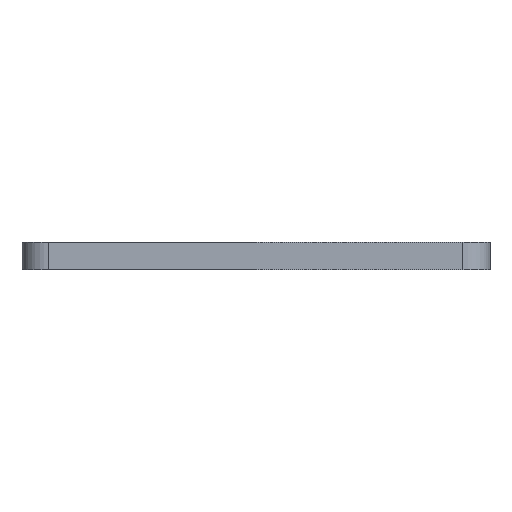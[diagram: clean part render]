
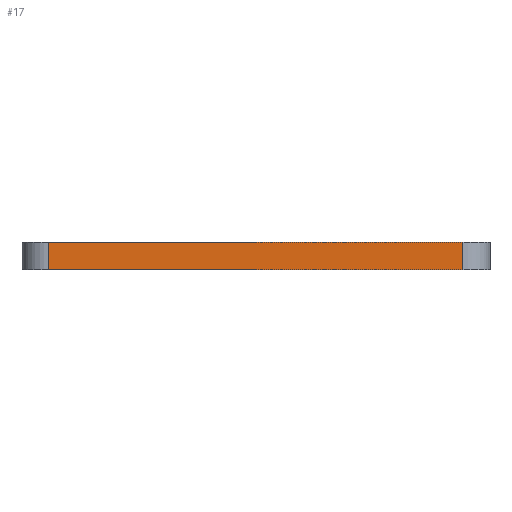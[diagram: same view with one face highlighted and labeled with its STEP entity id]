
A CAD part, left-side view. The second image highlights one B-rep face of the part: STEP entity #17.
In plain terms, the highlighted planar face has unit normal (-1, 0, 0).
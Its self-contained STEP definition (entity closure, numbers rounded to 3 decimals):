
#17 = ADVANCED_FACE('',(#18),#32,.F.);
#18 = FACE_BOUND('',#19,.F.);
#19 = EDGE_LOOP('',(#20,#55,#83,#111));
#20 = ORIENTED_EDGE('',*,*,#21,.F.);
#21 = EDGE_CURVE('',#22,#24,#26,.T.);
#22 = VERTEX_POINT('',#23);
#23 = CARTESIAN_POINT('',(0.,3.,3.));
#24 = VERTEX_POINT('',#25);
#25 = CARTESIAN_POINT('',(0.,49.,3.));
#26 = SURFACE_CURVE('',#27,(#31,#43),.PCURVE_S1.);
#27 = LINE('',#28,#29);
#28 = CARTESIAN_POINT('',(0.,0.,3.));
#29 = VECTOR('',#30,1.);
#30 = DIRECTION('',(0.,1.,0.));
#31 = PCURVE('',#32,#37);
#32 = PLANE('',#33);
#33 = AXIS2_PLACEMENT_3D('',#34,#35,#36);
#34 = CARTESIAN_POINT('',(0.,0.,0.));
#35 = DIRECTION('',(1.,0.,0.));
#36 = DIRECTION('',(0.,0.,1.));
#37 = DEFINITIONAL_REPRESENTATION('',(#38),#42);
#38 = LINE('',#39,#40);
#39 = CARTESIAN_POINT('',(3.,0.));
#40 = VECTOR('',#41,1.);
#41 = DIRECTION('',(0.,-1.));
#42 = ( GEOMETRIC_REPRESENTATION_CONTEXT(2) 
PARAMETRIC_REPRESENTATION_CONTEXT() REPRESENTATION_CONTEXT('2D SPACE',''
  ) );
#43 = PCURVE('',#44,#49);
#44 = PLANE('',#45);
#45 = AXIS2_PLACEMENT_3D('',#46,#47,#48);
#46 = CARTESIAN_POINT('',(0.,0.,3.));
#47 = DIRECTION('',(0.,0.,1.));
#48 = DIRECTION('',(1.,0.,0.));
#49 = DEFINITIONAL_REPRESENTATION('',(#50),#54);
#50 = LINE('',#51,#52);
#51 = CARTESIAN_POINT('',(0.,0.));
#52 = VECTOR('',#53,1.);
#53 = DIRECTION('',(0.,1.));
#54 = ( GEOMETRIC_REPRESENTATION_CONTEXT(2) 
PARAMETRIC_REPRESENTATION_CONTEXT() REPRESENTATION_CONTEXT('2D SPACE',''
  ) );
#55 = ORIENTED_EDGE('',*,*,#56,.F.);
#56 = EDGE_CURVE('',#57,#22,#59,.T.);
#57 = VERTEX_POINT('',#58);
#58 = CARTESIAN_POINT('',(0.,3.,0.));
#59 = SURFACE_CURVE('',#60,(#64,#71),.PCURVE_S1.);
#60 = LINE('',#61,#62);
#61 = CARTESIAN_POINT('',(0.,3.,0.));
#62 = VECTOR('',#63,1.);
#63 = DIRECTION('',(0.,0.,1.));
#64 = PCURVE('',#32,#65);
#65 = DEFINITIONAL_REPRESENTATION('',(#66),#70);
#66 = LINE('',#67,#68);
#67 = CARTESIAN_POINT('',(0.,-3.));
#68 = VECTOR('',#69,1.);
#69 = DIRECTION('',(1.,0.));
#70 = ( GEOMETRIC_REPRESENTATION_CONTEXT(2) 
PARAMETRIC_REPRESENTATION_CONTEXT() REPRESENTATION_CONTEXT('2D SPACE',''
  ) );
#71 = PCURVE('',#72,#77);
#72 = CYLINDRICAL_SURFACE('',#73,3.);
#73 = AXIS2_PLACEMENT_3D('',#74,#75,#76);
#74 = CARTESIAN_POINT('',(3.,3.,0.));
#75 = DIRECTION('',(0.,0.,1.));
#76 = DIRECTION('',(-1.,-0.,0.));
#77 = DEFINITIONAL_REPRESENTATION('',(#78),#82);
#78 = LINE('',#79,#80);
#79 = CARTESIAN_POINT('',(0.,0.));
#80 = VECTOR('',#81,1.);
#81 = DIRECTION('',(0.,1.));
#82 = ( GEOMETRIC_REPRESENTATION_CONTEXT(2) 
PARAMETRIC_REPRESENTATION_CONTEXT() REPRESENTATION_CONTEXT('2D SPACE',''
  ) );
#83 = ORIENTED_EDGE('',*,*,#84,.T.);
#84 = EDGE_CURVE('',#57,#85,#87,.T.);
#85 = VERTEX_POINT('',#86);
#86 = CARTESIAN_POINT('',(0.,49.,0.));
#87 = SURFACE_CURVE('',#88,(#92,#99),.PCURVE_S1.);
#88 = LINE('',#89,#90);
#89 = CARTESIAN_POINT('',(0.,0.,0.));
#90 = VECTOR('',#91,1.);
#91 = DIRECTION('',(0.,1.,0.));
#92 = PCURVE('',#32,#93);
#93 = DEFINITIONAL_REPRESENTATION('',(#94),#98);
#94 = LINE('',#95,#96);
#95 = CARTESIAN_POINT('',(0.,0.));
#96 = VECTOR('',#97,1.);
#97 = DIRECTION('',(0.,-1.));
#98 = ( GEOMETRIC_REPRESENTATION_CONTEXT(2) 
PARAMETRIC_REPRESENTATION_CONTEXT() REPRESENTATION_CONTEXT('2D SPACE',''
  ) );
#99 = PCURVE('',#100,#105);
#100 = PLANE('',#101);
#101 = AXIS2_PLACEMENT_3D('',#102,#103,#104);
#102 = CARTESIAN_POINT('',(0.,0.,0.));
#103 = DIRECTION('',(0.,0.,1.));
#104 = DIRECTION('',(1.,0.,0.));
#105 = DEFINITIONAL_REPRESENTATION('',(#106),#110);
#106 = LINE('',#107,#108);
#107 = CARTESIAN_POINT('',(0.,0.));
#108 = VECTOR('',#109,1.);
#109 = DIRECTION('',(0.,1.));
#110 = ( GEOMETRIC_REPRESENTATION_CONTEXT(2) 
PARAMETRIC_REPRESENTATION_CONTEXT() REPRESENTATION_CONTEXT('2D SPACE',''
  ) );
#111 = ORIENTED_EDGE('',*,*,#112,.T.);
#112 = EDGE_CURVE('',#85,#24,#113,.T.);
#113 = SURFACE_CURVE('',#114,(#118,#125),.PCURVE_S1.);
#114 = LINE('',#115,#116);
#115 = CARTESIAN_POINT('',(0.,49.,0.));
#116 = VECTOR('',#117,1.);
#117 = DIRECTION('',(0.,0.,1.));
#118 = PCURVE('',#32,#119);
#119 = DEFINITIONAL_REPRESENTATION('',(#120),#124);
#120 = LINE('',#121,#122);
#121 = CARTESIAN_POINT('',(0.,-49.));
#122 = VECTOR('',#123,1.);
#123 = DIRECTION('',(1.,0.));
#124 = ( GEOMETRIC_REPRESENTATION_CONTEXT(2) 
PARAMETRIC_REPRESENTATION_CONTEXT() REPRESENTATION_CONTEXT('2D SPACE',''
  ) );
#125 = PCURVE('',#126,#131);
#126 = CYLINDRICAL_SURFACE('',#127,3.);
#127 = AXIS2_PLACEMENT_3D('',#128,#129,#130);
#128 = CARTESIAN_POINT('',(3.,49.,0.));
#129 = DIRECTION('',(0.,0.,1.));
#130 = DIRECTION('',(-1.,-0.,0.));
#131 = DEFINITIONAL_REPRESENTATION('',(#132),#136);
#132 = LINE('',#133,#134);
#133 = CARTESIAN_POINT('',(-0.,0.));
#134 = VECTOR('',#135,1.);
#135 = DIRECTION('',(-0.,1.));
#136 = ( GEOMETRIC_REPRESENTATION_CONTEXT(2) 
PARAMETRIC_REPRESENTATION_CONTEXT() REPRESENTATION_CONTEXT('2D SPACE',''
  ) );
